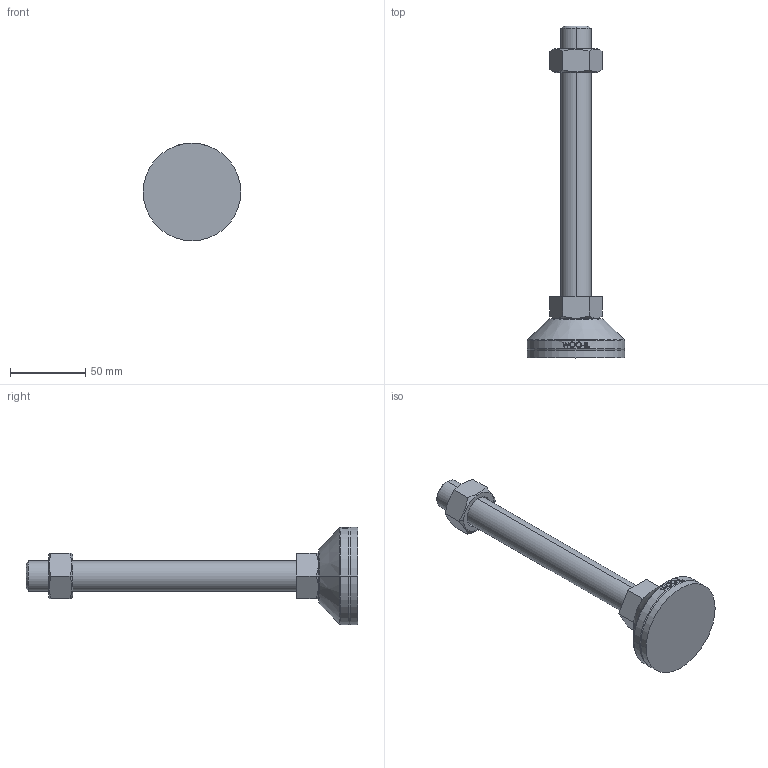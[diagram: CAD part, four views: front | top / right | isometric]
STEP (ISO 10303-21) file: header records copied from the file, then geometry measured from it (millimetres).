
FILE_DESCRIPTION (( 'STEP AP214' ), '1' );
FILE_NAME ('NHNR65-M20-180.step', '2021-01-25T06:18:23', ( '' ), ( '' ), 'SwSTEP 2.0', 'SolidWorks 2019', '' );
FILE_SCHEMA (( 'AUTOMOTIVE_DESIGN' ));
Length unit declared in the file: millimetre
Products named in the file (2): NHNR65-M20-180
Bounding box: 65 x 221 x 65 mm (x, y, z)
Volume: 143243.4 mm3; surface area: 34523.4 mm2
Topology: 4 solids, 4 shells, 105 faces, 239 edges, 152 vertices
Faces by surface type: plane 49, cylinder 18, bspline 16, cone 14, torus 8
Entity records: 4375 total; most frequent: CARTESIAN_POINT 2058, ORIENTED_EDGE 478, DIRECTION 429, EDGE_CURVE 239, AXIS2_PLACEMENT_3D 165, VERTEX_POINT 152, EDGE_LOOP 117, FACE_OUTER_BOUND 105
